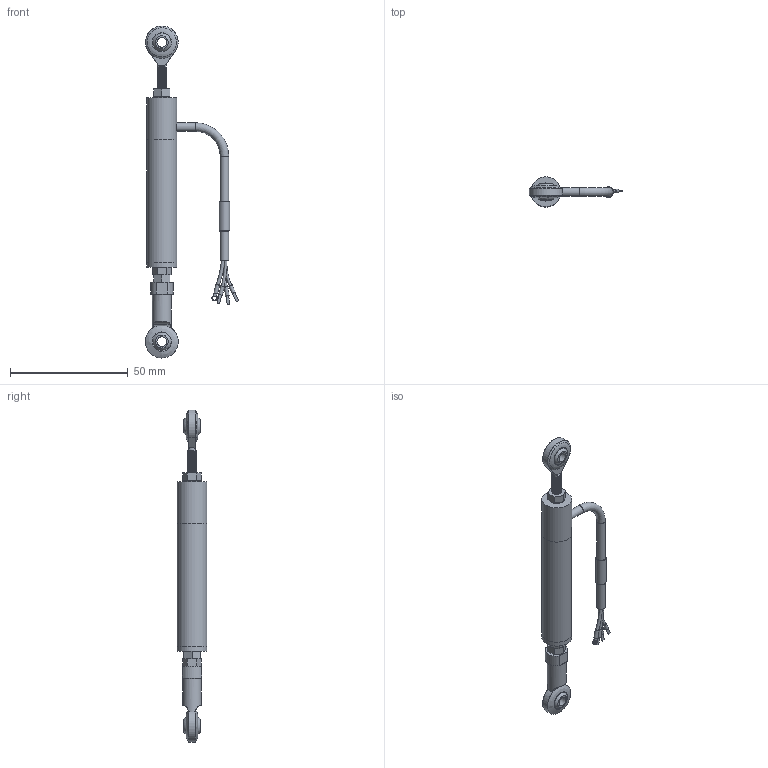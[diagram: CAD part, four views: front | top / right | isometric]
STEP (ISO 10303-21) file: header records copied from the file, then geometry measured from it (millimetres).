
FILE_DESCRIPTION(/* description */ (''),/* implementation_level */ '2;1');
FILE_NAME(/* name */ 'LPPS-12-010-R Assembly (wrapped).step',/* time_stamp */ '2023-10-10T10:43:02-04:00',/* author */ ('TSC_Grant'),/* organization */ (''),/* preprocessor_version */ 'ST-DEVELOPER v19.2',/* originating_system */ 'Autodesk Inventor 2024',/* authorisation */ '');
FILE_SCHEMA (('AUTOMOTIVE_DESIGN { 1 0 10303 214 3 1 1 }'));
Length unit declared in the file: inch
Products named in the file (4): LPPS-12-010-R Assembly (wrapped); LPPS-12-010-R Body (wrapped); LPPS-12-010-R Spoiler (wrapped); Wire
Assembly tree (3 placements, depth 2):
  LPPS-12-010-R Assembly (wrapped)
    LPPS-12-010-R Body (wrapped)
    LPPS-12-010-R Spoiler (wrapped)
    Wire
Bounding box: 39.48 x 12.7 x 140.7 mm (x, y, z)
Volume: 12056.5 mm3; surface area: 8085 mm2
Topology: 13 solids, 13 shells, 200 faces, 462 edges, 306 vertices
Faces by surface type: plane 94, cylinder 74, bspline 21, torus 7, sphere 4
Full cylindrical faces by diameter (mm): 1.016 x3, 1.27 x1, 1.524 x3, 1.651 x2, 3.632 x5, 3.937 x14, 4.14 x2, 4.191 x1, 4.445 x1, 6.604 x1, 8.001 x1, 12.7 x3
Entity records: 9510 total; most frequent: CARTESIAN_POINT 4641, ORIENTED_EDGE 924, DIRECTION 895, EDGE_CURVE 462, AXIS2_PLACEMENT_3D 345, VERTEX_POINT 306, EDGE_LOOP 228, LINE 205
